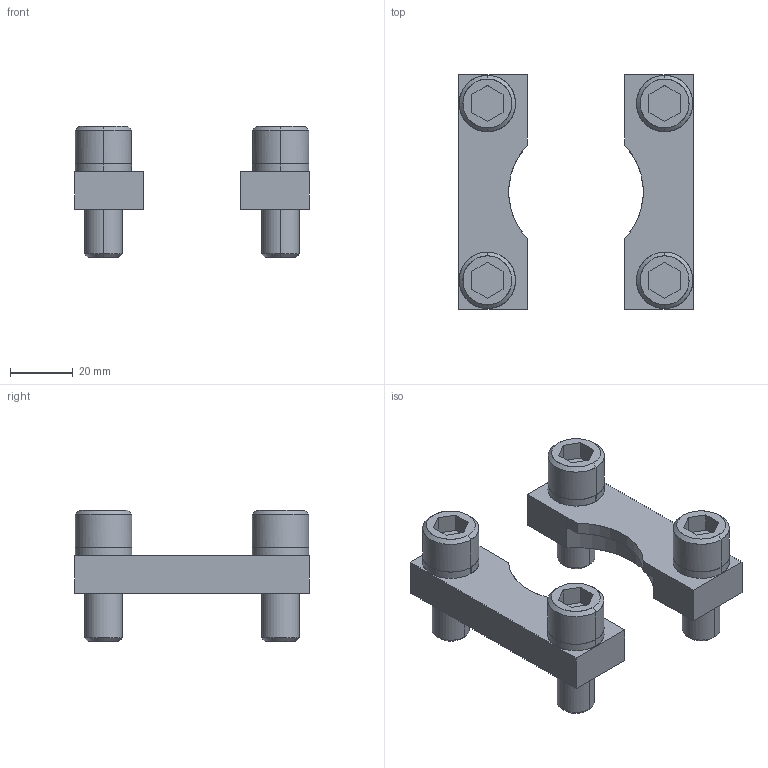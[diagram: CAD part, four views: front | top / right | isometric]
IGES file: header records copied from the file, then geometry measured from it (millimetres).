
Global section: file name: E:\UnigraphicsGraphicData\MISUMI_PRESS-PARTS\IGES\3d_sf50_05186_r00.igs; native system: NX V5.0; preprocessor: UGS NX IGES V5.0; author: MISUMI; date: 20110105.162528; units: millimetre
Bounding box: 75 x 75 x 42 mm (x, y, z)
Surface area: 23687 mm2 (no closed solid volume)
Topology: 0 solids, 0 shells, 136 faces, 868 edges, 868 vertices
Faces by surface type: bspline 136
